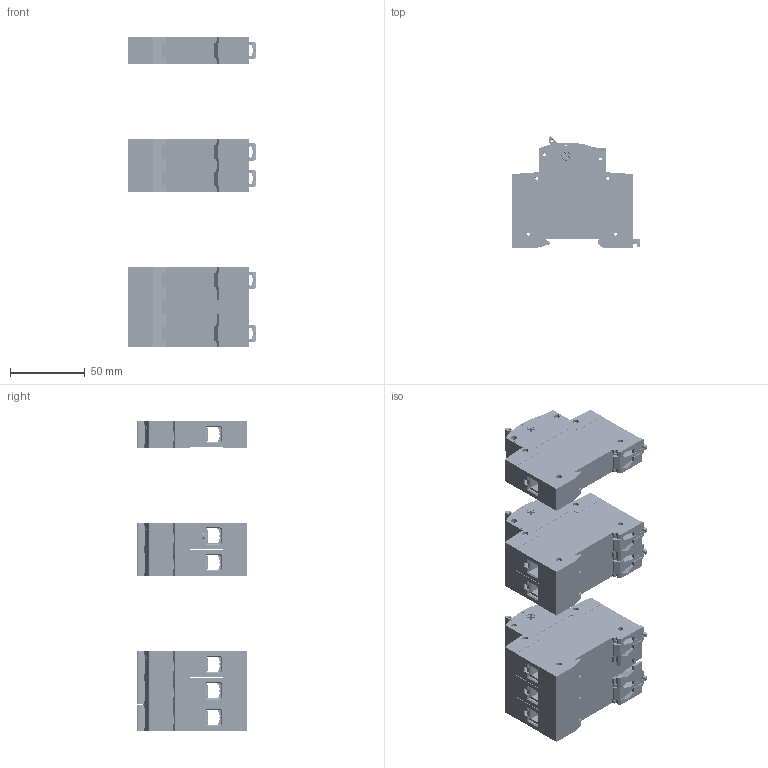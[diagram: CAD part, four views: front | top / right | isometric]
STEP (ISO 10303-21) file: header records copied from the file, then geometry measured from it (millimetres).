
FILE_DESCRIPTION (( 'STEP AP214' ), '1' );
FILE_NAME ('3D file Isolator MSD.STEP', '2025-02-20T08:07:17', ( '' ), ( '' ), 'SwSTEP 2.0', 'SolidWorks 2022', '' );
FILE_SCHEMA (( 'AUTOMOTIVE_DESIGN' ));
Length unit declared in the file: millimetre
Products named in the file (1): 3D file Isolator  MSD
Bounding box: 86 x 74.07 x 206.85 mm (x, y, z)
Volume: 149194.2 mm3; surface area: 231331 mm2
Topology: 62 solids, 66 shells, 10216 faces, 28519 edges, 18563 vertices
Faces by surface type: plane 5650, cylinder 3691, torus 331, cone 305, bspline 191, sphere 48
Entity records: 485025 total; most frequent: CARTESIAN_POINT 95145, ORIENTED_EDGE 58568, DIRECTION 57329, EDGE_CURVE 29284, AXIS2_PLACEMENT_3D 19388, VERTEX_POINT 19093, LINE 18553, VECTOR 18553
